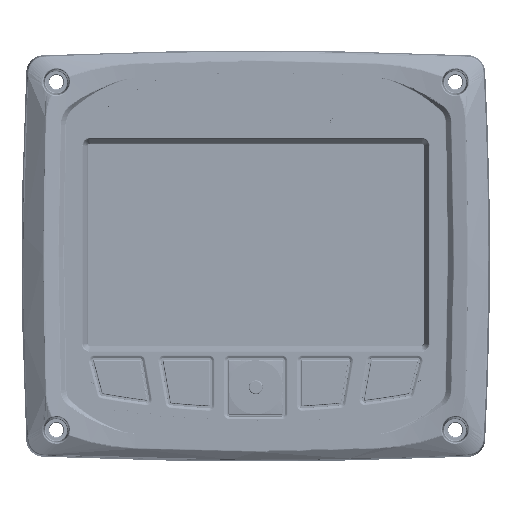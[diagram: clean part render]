
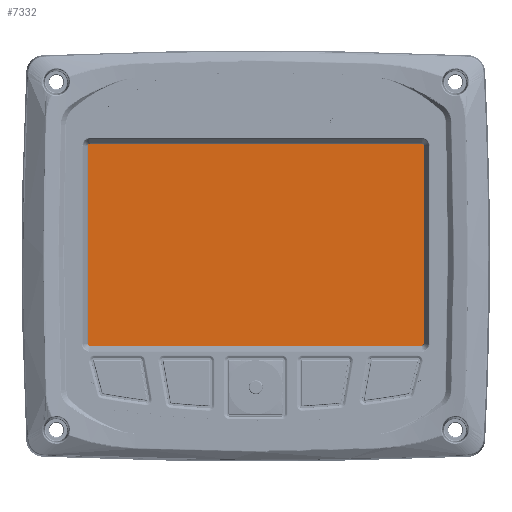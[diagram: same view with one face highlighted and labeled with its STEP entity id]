
A CAD part, top view. The second image highlights one B-rep face of the part: STEP entity #7332.
In plain terms, the highlighted planar face has unit normal (0, 0, 1).
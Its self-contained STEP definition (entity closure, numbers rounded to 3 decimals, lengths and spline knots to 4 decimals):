
#929 = EDGE_CURVE ( 'NONE', #227080, #162879, #448481, .T. ) ;
#7332 = ADVANCED_FACE ( 'NONE', ( #312000 ), #403301, .T. ) ;
#50094 = ORIENTED_EDGE ( 'NONE', *, *, #929, .T. ) ;
#71014 = ORIENTED_EDGE ( 'NONE', *, *, #389439, .T. ) ;
#85657 = DIRECTION ( 'NONE',  ( 1., 0., 0. ) ) ;
#104146 = DIRECTION ( 'NONE',  ( 0., 1., 0. ) ) ;
#109004 = VECTOR ( 'NONE', #350070, 39.3701 ) ;
#117424 = CARTESIAN_POINT ( 'NONE',  ( -3.1669, -1.7958, 0.4471 ) ) ;
#125344 = CARTESIAN_POINT ( 'NONE',  ( 3.1721, 2.1648, 0.4471 ) ) ;
#125381 = VERTEX_POINT ( 'NONE', #129192 ) ;
#129192 = CARTESIAN_POINT ( 'NONE',  ( 3.1721, -1.7958, 0.4471 ) ) ;
#130137 = DIRECTION ( 'NONE',  ( -1., 0., 0. ) ) ;
#162879 = VERTEX_POINT ( 'NONE', #286368 ) ;
#182171 = LINE ( 'NONE', #396190, #273127 ) ;
#227080 = VERTEX_POINT ( 'NONE', #383073 ) ;
#267926 = EDGE_CURVE ( 'NONE', #125381, #329786, #464630, .T. ) ;
#273127 = VECTOR ( 'NONE', #130137, 39.3701 ) ;
#276908 = VECTOR ( 'NONE', #104146, 39.3701 ) ;
#286368 = CARTESIAN_POINT ( 'NONE',  ( -3.1669, -1.7958, 0.4471 ) ) ;
#302008 = EDGE_LOOP ( 'NONE', ( #50094, #418347, #500140, #71014 ) ) ;
#307713 = CARTESIAN_POINT ( 'NONE',  ( -3.1669, 2.1648, 0.4471 ) ) ;
#312000 = FACE_OUTER_BOUND ( 'NONE', #302008, .T. ) ;
#326968 = CARTESIAN_POINT ( 'NONE',  ( 0.0026, 0.1845, 0.4471 ) ) ;
#329786 = VERTEX_POINT ( 'NONE', #125344 ) ;
#337861 = CARTESIAN_POINT ( 'NONE',  ( 3.1721, 2.1648, 0.4471 ) ) ;
#350070 = DIRECTION ( 'NONE',  ( 0., -1., 0. ) ) ;
#363149 = VECTOR ( 'NONE', #85657, 39.3701 ) ;
#365436 = AXIS2_PLACEMENT_3D ( 'NONE', #326968, #365977, #482940 ) ;
#365977 = DIRECTION ( 'NONE',  ( 0., 0., 1. ) ) ;
#383073 = CARTESIAN_POINT ( 'NONE',  ( -3.1669, 2.1648, 0.4471 ) ) ;
#389439 = EDGE_CURVE ( 'NONE', #329786, #227080, #182171, .T. ) ;
#396190 = CARTESIAN_POINT ( 'NONE',  ( -3.1669, 2.1648, 0.4471 ) ) ;
#403301 = PLANE ( 'NONE',  #365436 ) ;
#405100 = EDGE_CURVE ( 'NONE', #162879, #125381, #405452, .T. ) ;
#405452 = LINE ( 'NONE', #117424, #363149 ) ;
#418347 = ORIENTED_EDGE ( 'NONE', *, *, #405100, .T. ) ;
#448481 = LINE ( 'NONE', #307713, #109004 ) ;
#464630 = LINE ( 'NONE', #337861, #276908 ) ;
#482940 = DIRECTION ( 'NONE',  ( 1., 0., 0. ) ) ;
#500140 = ORIENTED_EDGE ( 'NONE', *, *, #267926, .T. ) ;
